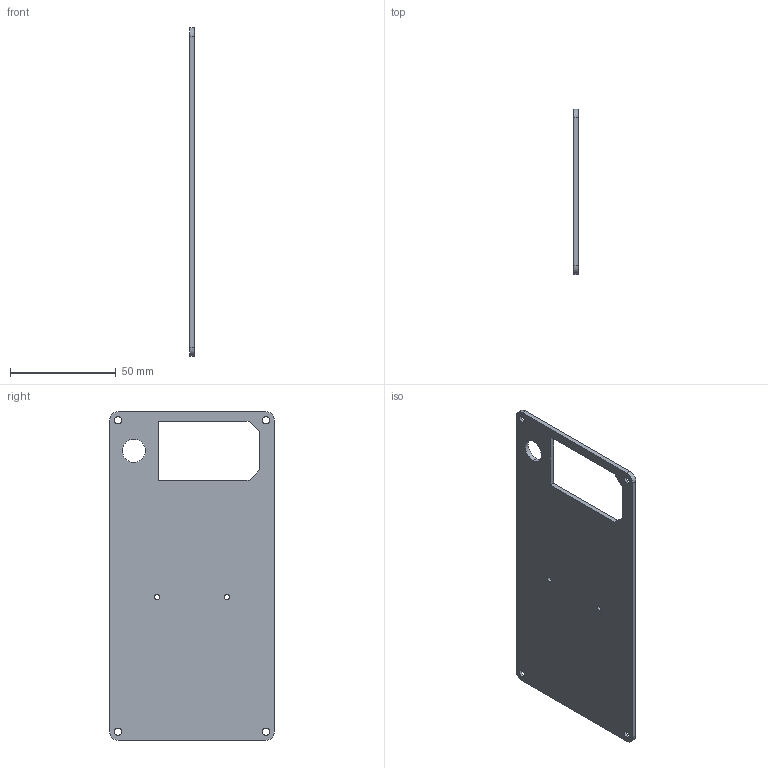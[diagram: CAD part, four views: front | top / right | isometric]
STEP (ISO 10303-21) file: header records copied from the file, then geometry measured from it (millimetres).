
FILE_DESCRIPTION (( 'STEP AP214' ), '1' );
FILE_NAME ('Box_left_side.STEP', '2015-02-26T22:47:38', ( '' ), ( '' ), '', '', '' );
FILE_SCHEMA (( '' ));
Length unit declared in the file: millimetre
Products named in the file (1): Box_left_side
Bounding box: 2.25 x 78 x 155.5 mm (x, y, z)
Volume: 23895.5 mm3; surface area: 22864.1 mm2
Topology: 1 solids, 1 shells, 30 faces, 84 edges, 56 vertices
Faces by surface type: plane 12, cylinder 10, cone 8
Entity records: 1039 total; most frequent: DIRECTION 182, CARTESIAN_POINT 171, ORIENTED_EDGE 168, EDGE_CURVE 84, AXIS2_PLACEMENT_3D 67, VERTEX_POINT 56, VECTOR 48, LINE 48
